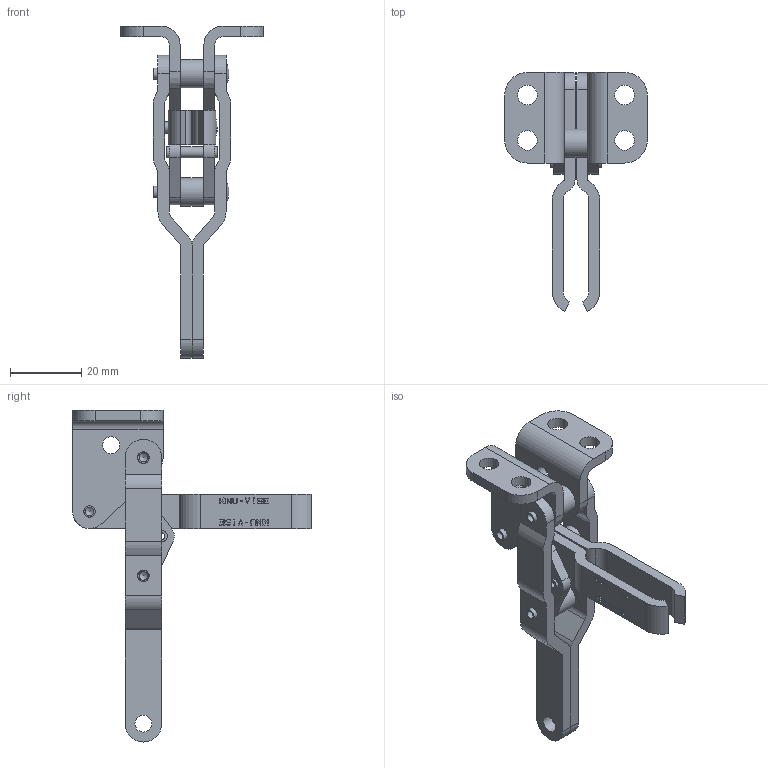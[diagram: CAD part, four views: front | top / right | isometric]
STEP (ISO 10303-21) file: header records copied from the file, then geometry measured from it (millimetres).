
FILE_DESCRIPTION(/* description */ (''),/* implementation_level */ '2;1');
FILE_NAME(/* name */ 'v-220',/* time_stamp */ '2004-12-08T23:38:18-05:00',/* author */ (''),/* organization */ (''),/* preprocessor_version */ 'ST-DEVELOPER v9',/* originating_system */ 'EDS PLM SOLUTIONS - UNIGRAPHICS NX 2.0',/* authorisation */ '');
FILE_SCHEMA (('AUTOMOTIVE_DESIGN { 1 0 10303 214 0 1 1 1 }'));
Length unit declared in the file: inch
Products named in the file (1): Al437Ffolx
Bounding box: 39.93 x 66.95 x 93.03 mm (x, y, z)
Volume: 16856.1 mm3; surface area: 16284.8 mm2
Topology: 15 solids, 15 shells, 584 faces, 1570 edges, 1048 vertices
Faces by surface type: plane 480, cylinder 82, extrusion 6, cone 4, sphere 4, torus 4, bspline 4
Full cylindrical faces by diameter (mm): 2.362 x4, 3.124 x4, 3.226 x14, 3.251 x4, 3.3 x2, 4.775 x4, 5.537 x4, 7.95 x2
Entity records: 17954 total; most frequent: CARTESIAN_POINT 3271, ORIENTED_EDGE 3000, DIRECTION 2808, EDGE_CURVE 1500, VECTOR 1314, LINE 1308, VERTEX_POINT 1032, AXIS2_PLACEMENT_3D 747
